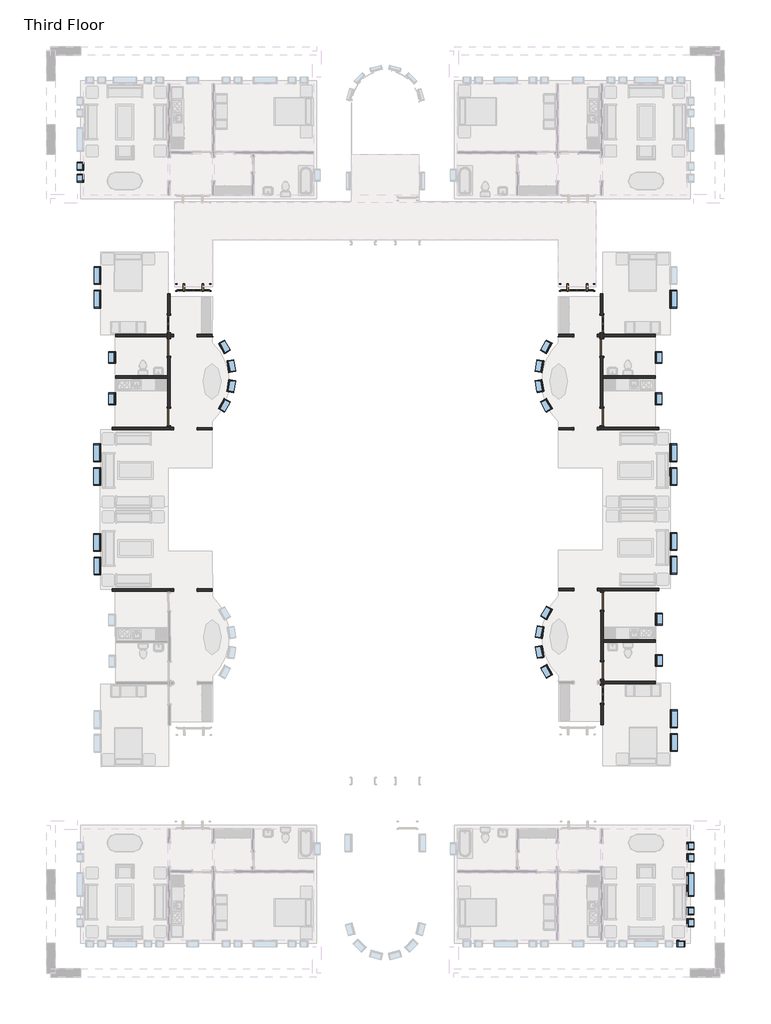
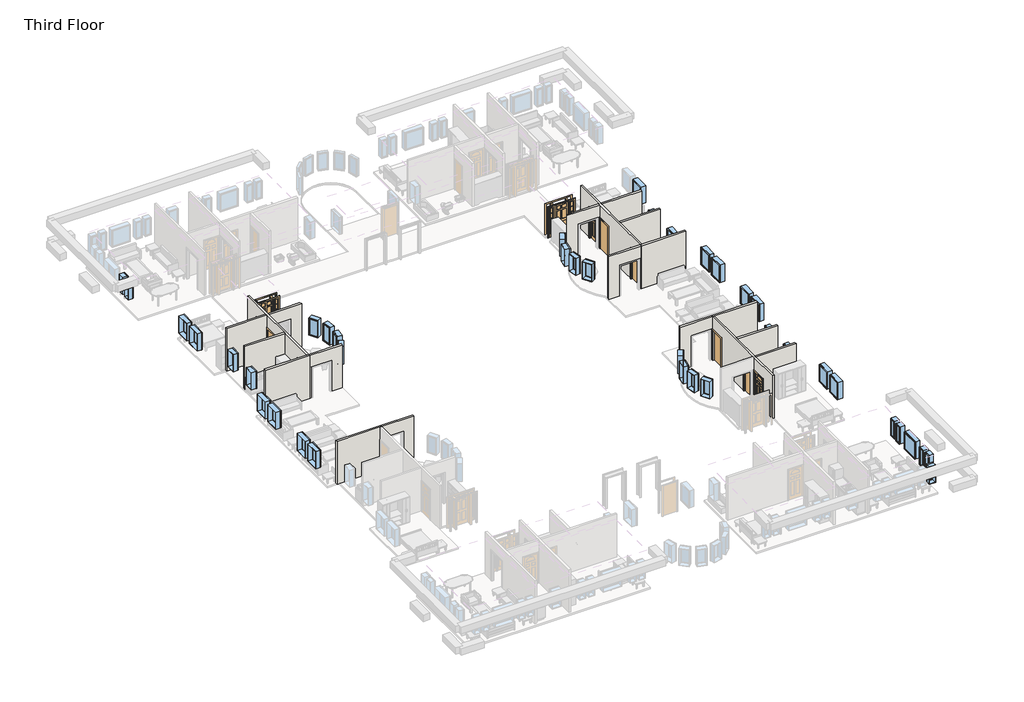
# One storey, part 2 of 5: 39 windows, 19 walls, 11 doors.
"""IFC4 building model written with IfcOpenShell, lengths in millimetres."""

from ifc_helpers import new_model, si_unit, frame, origin, place, context, project, spatial, polyline, circle_curve, outline, extrude, faceted_brep, transform, mapped, element, save
from ifc_brep_helpers import plane_surface, cylinder_surface, advanced_brep
from components import door_7a520c88, door_829da954, door_a1797ceb, door_a3eb833a, door_16372e1c, door_dba5aa2e, door_ffdb1193, window_da97879f, window_d61ef850, window_60baf983, window_ed80354a, window_15c49d37, window_0e2fc6ce, window_d89bf842

model = new_model("IFC4")

# Units and contexts
model_context = context("Model", 3, world=origin())
ifc_project = project(units=[si_unit("LENGTHUNIT", "METRE", prefix="MILLI")], contexts=[model_context])

# Site, building, storey
site = spatial("IfcSite", under=ifc_project)
building = spatial("IfcBuilding", under=site)
storey = spatial("IfcBuildingStorey", under=building, Name="Third Floor", Elevation=6096.0)

# Doors
placement = place(None, origin())
door_shape = door_7a520c88(model_context)
element("IfcDoor", 1, ObjectType="Single-Decorative 2 : 36\" x 84\"", at=placement, inside=storey, context=model_context, shape_type="MappedRepresentation", body=[
    mapped(door_shape, transform((-3771.8996568, -2102.1231556, 6096.0), x_axis=(0.0007588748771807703, -0.9999997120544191, 0.0), y_axis=(0.9999997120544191, 0.0007588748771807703, 0.0), z_axis=(0.0, 0.0, 1.0))),
])
door_2_shape = door_829da954(model_context)
element("IfcDoor", 2, ObjectType="Single-Decorative 2 : 36\" x 84\"", at=placement, inside=storey, context=model_context, shape_type="MappedRepresentation", body=[
    mapped(door_2_shape, transform((-26098.4432559, -2102.1231556, 6096.0), x_axis=(-0.0007588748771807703, -0.9999997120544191, 0.0), y_axis=(0.9999997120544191, -0.0007588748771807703, 0.0), z_axis=(0.0, 0.0, 1.0))),
])
element("IfcDoor", 3, ObjectType="Single-Decorative 2 : 36\" x 84\"", at=placement, inside=storey, context=model_context, shape_type="MappedRepresentation", body=[
    mapped(door_2_shape, transform((-3757.4044126, -21203.0849432, 6096.0), x_axis=(-0.0007588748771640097, 0.999999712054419, 0.0), y_axis=(-0.999999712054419, -0.0007588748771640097, 0.0), z_axis=(0.0, 0.0, 1.0))),
])
door_3_shape = door_a1797ceb(model_context)
element("IfcDoor", 4, ObjectType="Single-Flush : 36\" x 84\"", at=placement, inside=storey, context=model_context, shape_type="MappedRepresentation", body=[
    mapped(door_3_shape, transform((-26099.3684761, -3321.3228045, 6096.0), x_axis=(0.0007588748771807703, 0.9999997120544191, 0.0), y_axis=(-0.9999997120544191, 0.0007588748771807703, 0.0), z_axis=(0.0, 0.0, 1.0))),
])
element("IfcDoor", 5, ObjectType="Single-Flush : 36\" x 84\"", at=placement, inside=storey, context=model_context, shape_type="MappedRepresentation", body=[
    mapped(door_3_shape, transform((-3758.3296328, -19983.8852943, 6096.0), x_axis=(0.0007588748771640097, -0.999999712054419, 0.0), y_axis=(0.999999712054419, 0.0007588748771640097, 0.0), z_axis=(0.0, 0.0, 1.0))),
])
door_4_shape = door_a3eb833a(model_context)
element("IfcDoor", 6, ObjectType="Single-Flush : 36\" x 84\"", at=placement, inside=storey, context=model_context, shape_type="MappedRepresentation", body=[
    mapped(door_4_shape, transform((-26102.0839012, -6899.5467742, 6096.0), x_axis=(-0.0007588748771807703, -0.9999997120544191, 0.0), y_axis=(0.9999997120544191, -0.0007588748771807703, 0.0), z_axis=(0.0, 0.0, 1.0))),
])
element("IfcDoor", 7, ObjectType="Single-Flush : 36\" x 84\"", at=placement, inside=storey, context=model_context, shape_type="MappedRepresentation", body=[
    mapped(door_4_shape, transform((-3761.0450579, -16405.6613246, 6096.0), x_axis=(-0.0007588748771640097, 0.999999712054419, 0.0), y_axis=(-0.999999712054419, -0.0007588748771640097, 0.0), z_axis=(0.0, 0.0, 1.0))),
])
door_5_shape = door_16372e1c(model_context)
element("IfcDoor", 8, ObjectType="Single-Flush : 36\" x 84\"", at=placement, inside=storey, context=model_context, shape_type="MappedRepresentation", body=[
    mapped(door_5_shape, transform((-3768.2590115, -6899.5467742, 6096.0), x_axis=(0.0007588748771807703, -0.9999997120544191, 0.0), y_axis=(0.9999997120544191, 0.0007588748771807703, 0.0), z_axis=(0.0, 0.0, 1.0))),
])
element("IfcDoor", 9, ObjectType="Single-Flush : 36\" x 84\"", at=placement, inside=storey, context=model_context, shape_type="MappedRepresentation", body=[
    mapped(door_5_shape, transform((-3770.9744365, -3321.3228045, 6096.0), x_axis=(-0.0007588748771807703, 0.9999997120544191, 0.0), y_axis=(-0.9999997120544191, -0.0007588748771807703, 0.0), z_axis=(0.0, 0.0, 1.0))),
])
door_6_shape = door_dba5aa2e(model_context)
element("IfcDoor", 10, ObjectType="Single-Raised Panel with Sidelights : 36\" x 84\"", at=placement, inside=storey, context=model_context, shape_type="MappedRepresentation", body=[
    mapped(door_6_shape, transform((-24841.3047997, -223.5602693, 6096.0), x_axis=(0.9999997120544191, -0.0007588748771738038, 0.0), y_axis=(0.0007588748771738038, 0.9999997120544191, 0.0), z_axis=(0.0, 0.0, 1.0))),
])
door_7_shape = door_ffdb1193(model_context)
element("IfcDoor", 11, ObjectType="Single-Raised Panel with Sidelights : 36\" x 84\"", at=placement, inside=storey, context=model_context, shape_type="MappedRepresentation", body=[
    mapped(door_7_shape, transform((-5029.0381129, -223.5602693, 6096.0), x_axis=(-0.9999997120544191, -0.0007588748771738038, 0.0), y_axis=(0.0007588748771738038, -0.9999997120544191, 0.0), z_axis=(0.0, 0.0, 1.0))),
])

# Walls
element("IfcWall", 12, ObjectType="Interior - 5\" Partition (2-hr)", at=placement, inside=storey, context=model_context, shape_type="Brep", body=[
    faceted_brep([(-832.5579351, -7443.419101, 6096.0), (-3704.3446082, -7445.5984284, 6096.0), (-3831.3445716, -7445.6948055, 6096.0), (-3831.3445716, -7445.6948055, 9144.0), (-3704.3446082, -7445.5984284, 9144.0), (-832.5579351, -7443.419101, 9144.0), (-832.461558, -7570.4190644, 6096.0), (-832.461558, -7570.4190644, 9144.0), (-3831.2481945, -7572.6947689, 9144.0), (-3831.2481945, -7572.6947689, 6096.0)], [[[0, 1, 2, 3, 4, 5]], [[6, 7, 8, 9]], [[2, 1, 0, 6, 9]], [[5, 4, 3, 8, 7]], [[0, 5, 7, 6]], [[3, 2, 9, 8]]]),
])
element("IfcWall", 13, ObjectType="Interior - 5\" Partition (2-hr)", at=placement, inside=storey, context=model_context, shape_type="Brep", body=[
    faceted_brep([(-3836.5862816, -538.4842944, 6096.0), (-3836.5862816, -538.4842944, 9144.0), (-3709.5863182, -538.3879173, 9144.0), (-3709.5863182, -538.3879173, 6096.0), (-3831.3445716, -7445.6948055, 6096.0), (-3831.4120356, -7356.7948311, 6096.0), (-3704.4120721, -7356.698454, 6096.0), (-3704.3446082, -7445.5984284, 6096.0), (-3834.8213758, -2864.1711247, 6096.0), (-3834.8888398, -2775.2711503, 6096.0), (-3834.9852169, -2648.2711869, 6096.0), (-3835.0526809, -2559.3712125, 6096.0), (-3708.0527175, -2559.2748354, 6096.0), (-3707.9852535, -2648.1748098, 6096.0), (-3707.8888764, -2775.1747732, 6096.0), (-3707.8214124, -2864.0747476, 6096.0), (-3707.1274972, -3778.4744843, 6096.0), (-3706.366118, -4781.7741954, 6096.0), (-3706.2697409, -4908.7741589, 6096.0), (-3705.1059873, -6442.2987173, 6096.0), (-3832.1059508, -6442.3950944, 6096.0), (-3834.1274606, -3778.5708614, 6096.0), (-3835.7465961, -1644.9714758, 6096.0), (-3708.7466326, -1644.8750987, 6096.0), (-3834.9852169, -2648.2711869, 9144.0), (-3834.8888398, -2775.2711503, 9144.0), (-3831.3445716, -7445.6948055, 9144.0), (-3704.3446082, -7445.5984284, 9144.0), (-3706.2697409, -4908.7741589, 9144.0), (-3706.366118, -4781.7741954, 9144.0), (-3707.8888764, -2775.1747732, 9144.0), (-3707.9852535, -2648.1748098, 9144.0), (-3835.0526809, -2559.3712125, 8229.6), (-3834.8213758, -2864.1711247, 8229.6), (-3834.1274606, -3778.5708614, 8229.6), (-3832.1059508, -6442.3950944, 8229.6), (-3831.4120356, -7356.7948311, 8229.6), (-3835.7465961, -1644.9714758, 8229.6), (-3708.0527175, -2559.2748354, 8229.6), (-3708.7466326, -1644.8750987, 8229.6), (-3704.4120721, -7356.698454, 8229.6), (-3705.1059873, -6442.2987173, 8229.6), (-3707.1274972, -3778.4744843, 8229.6), (-3707.8214124, -2864.0747476, 8229.6)], [[[0, 1, 2, 3]], [[4, 5, 6, 7]], [[8, 9, 10, 11, 12, 13, 14, 15]], [[16, 17, 18, 19, 20, 21]], [[22, 0, 3, 23]], [[1, 24, 25, 26, 27, 28, 29, 30, 31, 2]], [[32, 11, 10, 9, 8, 33, 34, 21, 20, 35, 36, 5, 4, 26, 25, 24, 1, 0, 22, 37]], [[15, 14, 13, 12, 38, 39, 23, 3, 2, 31, 30, 29, 28, 27, 7, 6, 40, 41, 19, 18, 17, 16, 42, 43]], [[26, 4, 7, 27]], [[40, 6, 5, 36]], [[41, 40, 36, 35]], [[19, 41, 35, 20]], [[33, 8, 15, 43]], [[34, 33, 43, 42]], [[21, 34, 42, 16]], [[38, 12, 11, 32]], [[39, 38, 32, 37]], [[23, 39, 37, 22]]]),
])
element("IfcWall", 14, ObjectType="Interior - 5\" Partition (2-hr)", at=placement, inside=storey, context=model_context, shape_type="SweptSolid", body=[
    extrude(outline(polyline([(-3707.9852535, -2648.1748098), (-1012.4110297, -2646.1292056), (-1012.3146526, -2773.1291691), (-3707.8888764, -2775.1747732), (-3707.9852535, -2648.1748098)])), frame((0.0, 0.0, 6096.0), z_axis=(0.0, 0.0, 1.0), x_axis=(1.0, 0.0, 0.0)), (0.0, 0.0, 1.0), 3048.0),
])
element("IfcWall", 15, ObjectType="Interior - 5\" Partition (2-hr)", at=placement, inside=storey, context=model_context, shape_type="SweptSolid", body=[
    extrude(outline(polyline([(-1010.6955171, -4906.7285547), (-3706.2697409, -4908.7741589), (-3706.366118, -4781.7741954), (-1010.7918942, -4779.7285913), (-1010.6955171, -4906.7285547)])), frame((0.0, 0.0, 6096.0), z_axis=(0.0, 0.0, 1.0), x_axis=(1.0, 0.0, 0.0)), (0.0, 0.0, 1.0), 3048.0),
])
element("IfcWall", 16, ObjectType="Interior - 5\" Partition (2-hr)", at=placement, inside=storey, context=model_context, shape_type="AdvancedBrep", body=[
    advanced_brep(
    [(-5993.9845952, -2649.9095978, 6096.0), (-5219.2848183, -2649.3216974, 6096.0), (-5219.1884412, -2776.3216608, 6096.0), (-6035.2682302, -2776.9409635, 6096.0), (-5993.9193325, -2735.9088692, 6096.0), (-4000.0851694, -2648.3964771, 6096.0), (-3834.9852169, -2648.2711869, 6096.0), (-3834.8888398, -2775.2711503, 6096.0), (-3999.9887923, -2775.3964406, 6096.0), (-3834.9852169, -2648.2711869, 9144.0), (-5993.9845952, -2649.9095978, 9144.0), (-5993.9193325, -2735.9088692, 9144.0), (-6035.2682302, -2776.9409635, 9144.0), (-3834.8888398, -2775.2711503, 9144.0), (-5219.2848183, -2649.3216974, 8229.6), (-4000.0851694, -2648.3964771, 8229.6), (-5219.1884412, -2776.3216608, 8229.6), (-3999.9887923, -2775.3964406, 8229.6)],
    [
        (0, 1),
        (1, 2),
        (2, 3),
        (3, 4, circle_curve(frame((-3991.8614496, -4794.7744983, 6096.0), z_axis=(0.0, 0.0, -1.0), x_axis=(-0.716928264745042, -0.697146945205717, 0.0)), 2871.7875)),
        (4, 0),
        (5, 6),
        (6, 7),
        (7, 8),
        (8, 5),
        (9, 10),
        (10, 11),
        (11, 12, circle_curve(frame((-3991.8614496, -4794.7744983, 9144.0), z_axis=(0.0, 0.0, 1.0), x_axis=(-0.716928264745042, -0.697146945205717, 0.0)), 2871.7875)),
        (12, 13),
        (13, 9),
        (14, 1),
        (0, 10),
        (9, 6),
        (5, 15),
        (15, 14),
        (2, 16),
        (16, 17),
        (17, 8),
        (7, 13),
        (12, 3),
        (4, 11),
        (17, 15),
        (14, 16),
    ],
    [
        plane_surface(frame((-3771.4852352, -2648.2229983, 6096.0), z_axis=(0.0, 0.0, -1.0000000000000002), x_axis=(0.0007588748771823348, -0.9999997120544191, 0.0))),
        plane_surface(frame((-6218.7760824, -2650.0801864, 9144.0), z_axis=(0.0, 0.0, 1.0000000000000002), x_axis=(0.000758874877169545, -0.9999997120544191, 0.0))),
        plane_surface(frame((-3771.4852352, -2648.2229983, 6096.0), z_axis=(-0.0007588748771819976, 0.9999997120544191, 0.0), x_axis=(-0.9999997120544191, -0.0007588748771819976, 0.0))),
        plane_surface(frame((-3771.3888581, -2775.2229618, 6096.0), z_axis=(0.0007588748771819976, -0.9999997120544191, 0.0), x_axis=(0.9999997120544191, 0.0007588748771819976, 0.0))),
        plane_surface(frame((-3836.4525584, -714.6967437, 6096.0), z_axis=(0.9999997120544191, 0.0007588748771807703, 0.0), x_axis=(0.0007588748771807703, -0.9999997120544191, 0.0))),
        plane_surface(frame((-5994.8723335, -1480.1014046, 5943.6), z_axis=(-0.999999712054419, -0.0007588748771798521, 0.0), x_axis=(0.0007588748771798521, -0.999999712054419, 0.0))),
        cylinder_surface(frame((-3991.8614496, -4794.7744983, 5943.6), z_axis=(0.0, 0.0, 1.0), x_axis=(-0.716928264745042, -0.697146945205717, 0.0)), 2871.7875),
        plane_surface(frame((-3999.9887923, -2775.3964406, 8229.6), z_axis=(-0.9999997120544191, -0.0007588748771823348, 0.0), x_axis=(-0.0007588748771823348, 0.9999997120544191, 0.0))),
        plane_surface(frame((-5219.1884412, -2776.3216608, 6096.0), z_axis=(0.9999997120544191, 0.0007588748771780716, 0.0), x_axis=(-0.0007588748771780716, 0.9999997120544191, 0.0))),
        plane_surface(frame((-5219.1884412, -2776.3216608, 8229.6), z_axis=(0.0, 0.0, -1.0000000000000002), x_axis=(-0.0007588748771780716, 0.9999997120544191, 0.0))),
    ],
    [
        (0, [[1, 2, 3, 4, 5]]),
        (0, [[6, 7, 8, 9]]),
        (1, [[10, 11, 12, 13, 14]]),
        (2, [[15, -1, 16, -10, 17, -6, 18, 19]]),
        (3, [[-3, 20, 21, 22, -8, 23, -13, 24]]),
        (4, [[-17, -14, -23, -7]]),
        (5, [[-16, -5, 25, -11]]),
        (6, [[-4, -24, -12, -25]]),
        (7, [[-22, 26, -18, -9]]),
        (8, [[-20, -2, -15, 27]]),
        (9, [[-21, -27, -19, -26]]),
    ],
),
])
element("IfcWall", 17, ObjectType="Interior - 5\" Partition (2-hr)", at=placement, inside=storey, context=model_context, shape_type="SweptSolid", body=[
    extrude(outline(polyline([(-228.6, -2133.6), (-228.6, 0.0), (-63.5, 0.0), (-63.5, -3048.0), (-2222.5, -3048.0), (-2222.5, 0.0), (-1447.8, 0.0), (-1447.8, -2133.6), (-228.6, -2133.6)])), frame((-3767.7482128, -7572.6465804, 6096.0), z_axis=(-0.0007588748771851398, 0.9999997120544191, 0.0), x_axis=(0.9999997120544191, 0.0007588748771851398, 0.0)), (0.0, 0.0, 1.0), 127.0),
])
element("IfcWall", 18, ObjectType="Interior - 5\" Partition (2-hr)", at=placement, inside=storey, context=model_context, shape_type="Brep", body=[
    faceted_brep([(-29037.8813546, -7570.4190644, 6096.0), (-26039.0947181, -7572.6947689, 6096.0), (-26039.0947181, -7572.6947689, 9144.0), (-29037.8813546, -7570.4190644, 9144.0), (-29037.7849775, -7443.419101, 6096.0), (-29037.7849775, -7443.419101, 9144.0), (-26165.9983045, -7445.5984284, 9144.0), (-26038.998341, -7445.6948055, 9144.0), (-26038.998341, -7445.6948055, 6096.0), (-26165.9983045, -7445.5984284, 6096.0)], [[[0, 1, 2, 3]], [[4, 5, 6, 7, 8, 9]], [[1, 0, 4, 9, 8]], [[3, 2, 7, 6, 5]], [[0, 3, 5, 4]], [[2, 1, 8, 7]]]),
])
element("IfcWall", 19, ObjectType="Interior - 5\" Partition (2-hr)", at=placement, inside=storey, context=model_context, shape_type="Brep", body=[
    faceted_brep([(-26160.7565944, -538.3879173, 6096.0), (-26160.7565944, -538.3879173, 9144.0), (-26033.756631, -538.4842944, 9144.0), (-26033.756631, -538.4842944, 6096.0), (-26165.9983045, -7445.5984284, 6096.0), (-26165.9308405, -7356.698454, 6096.0), (-26038.930877, -7356.7948311, 6096.0), (-26038.998341, -7445.6948055, 6096.0), (-26162.5215002, -2864.0747476, 6096.0), (-26162.4540363, -2775.1747732, 6096.0), (-26162.3576591, -2648.1748098, 6096.0), (-26162.2901952, -2559.2748354, 6096.0), (-26035.2902317, -2559.3712125, 6096.0), (-26035.3576957, -2648.2711869, 6096.0), (-26035.4540728, -2775.2711503, 6096.0), (-26035.5215368, -2864.1711247, 6096.0), (-26036.215452, -3778.5708614, 6096.0), (-26038.2369619, -6442.3950944, 6096.0), (-26165.2369253, -6442.2987173, 6096.0), (-26164.0731717, -4908.7741589, 6096.0), (-26163.9767946, -4781.7741954, 6096.0), (-26163.2154154, -3778.4744843, 6096.0), (-26161.59628, -1644.8750987, 6096.0), (-26034.5963165, -1644.9714758, 6096.0), (-26162.3576591, -2648.1748098, 9144.0), (-26162.4540363, -2775.1747732, 9144.0), (-26163.9767946, -4781.7741954, 9144.0), (-26164.0731717, -4908.7741589, 9144.0), (-26165.9983045, -7445.5984284, 9144.0), (-26038.998341, -7445.6948055, 9144.0), (-26035.4540728, -2775.2711503, 9144.0), (-26035.3576957, -2648.2711869, 9144.0), (-26162.2901952, -2559.2748354, 8229.6), (-26162.5215002, -2864.0747476, 8229.6), (-26163.2154154, -3778.4744843, 8229.6), (-26165.2369253, -6442.2987173, 8229.6), (-26165.9308405, -7356.698454, 8229.6), (-26161.59628, -1644.8750987, 8229.6), (-26035.2902317, -2559.3712125, 8229.6), (-26034.5963165, -1644.9714758, 8229.6), (-26038.930877, -7356.7948311, 8229.6), (-26038.2369619, -6442.3950944, 8229.6), (-26036.215452, -3778.5708614, 8229.6), (-26035.5215368, -2864.1711247, 8229.6)], [[[0, 1, 2, 3]], [[4, 5, 6, 7]], [[8, 9, 10, 11, 12, 13, 14, 15]], [[16, 17, 18, 19, 20, 21]], [[22, 0, 3, 23]], [[1, 24, 25, 26, 27, 28, 29, 30, 31, 2]], [[32, 11, 10, 9, 8, 33, 34, 21, 20, 19, 18, 35, 36, 5, 4, 28, 27, 26, 25, 24, 1, 0, 22, 37]], [[15, 14, 13, 12, 38, 39, 23, 3, 2, 31, 30, 29, 7, 6, 40, 41, 17, 16, 42, 43]], [[28, 4, 7, 29]], [[40, 6, 5, 36]], [[41, 40, 36, 35]], [[17, 41, 35, 18]], [[33, 8, 15, 43]], [[34, 33, 43, 42]], [[21, 34, 42, 16]], [[38, 12, 11, 32]], [[39, 38, 32, 37]], [[23, 39, 37, 22]]]),
])
element("IfcWall", 20, ObjectType="Interior - 5\" Partition (2-hr)", at=placement, inside=storey, context=model_context, shape_type="SweptSolid", body=[
    extrude(outline(polyline([(-26162.4540363, -2775.1747732), (-28858.0282601, -2773.1291691), (-28857.931883, -2646.1292056), (-26162.3576591, -2648.1748098), (-26162.4540363, -2775.1747732)])), frame((0.0, 0.0, 6096.0), z_axis=(0.0, 0.0, 1.0), x_axis=(1.0, 0.0, 0.0)), (0.0, 0.0, 1.0), 3048.0),
])
element("IfcWall", 21, ObjectType="Interior - 5\" Partition (2-hr)", at=placement, inside=storey, context=model_context, shape_type="SweptSolid", body=[
    extrude(outline(polyline([(-28859.5510184, -4779.7285913), (-26163.9767946, -4781.7741954), (-26164.0731717, -4908.7741589), (-28859.6473955, -4906.7285547), (-28859.5510184, -4779.7285913)])), frame((0.0, 0.0, 6096.0), z_axis=(0.0, 0.0, 1.0), x_axis=(1.0, 0.0, 0.0)), (0.0, 0.0, 1.0), 3048.0),
])
element("IfcWall", 22, ObjectType="Interior - 5\" Partition (2-hr)", at=placement, inside=storey, context=model_context, shape_type="AdvancedBrep", body=[
    advanced_brep(
    [(-23835.0746824, -2776.9409635, 6096.0), (-24651.1544714, -2776.3216608, 6096.0), (-24651.0580943, -2649.3216974, 6096.0), (-23876.3583174, -2649.9095978, 6096.0), (-23876.4235801, -2735.9088692, 6096.0), (-25870.3541204, -2775.3964406, 6096.0), (-26035.4540728, -2775.2711503, 6096.0), (-26035.3576957, -2648.2711869, 6096.0), (-25870.2577433, -2648.3964771, 6096.0), (-26035.4540728, -2775.2711503, 9144.0), (-23835.0746824, -2776.9409635, 9144.0), (-23876.4235801, -2735.9088692, 9144.0), (-23876.3583174, -2649.9095978, 9144.0), (-26035.3576957, -2648.2711869, 9144.0), (-24651.1544714, -2776.3216608, 8229.6), (-25870.3541204, -2775.3964406, 8229.6), (-24651.0580943, -2649.3216974, 8229.6), (-25870.2577433, -2648.3964771, 8229.6)],
    [
        (0, 1),
        (1, 2),
        (2, 3),
        (3, 4),
        (4, 0, circle_curve(frame((-25878.481463, -4794.7744983, 6096.0), z_axis=(0.0, 0.0, -1.0), x_axis=(0.7005417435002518, 0.7136114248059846, 0.0)), 2871.7875)),
        (5, 6),
        (6, 7),
        (7, 8),
        (8, 5),
        (9, 10),
        (10, 11, circle_curve(frame((-25878.481463, -4794.7744983, 9144.0), z_axis=(0.0, 0.0, 1.0), x_axis=(0.7005417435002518, 0.7136114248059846, 0.0)), 2871.7875)),
        (11, 12),
        (12, 13),
        (13, 9),
        (14, 1),
        (0, 10),
        (9, 6),
        (5, 15),
        (15, 14),
        (2, 16),
        (16, 17),
        (17, 8),
        (7, 13),
        (12, 3),
        (4, 11),
        (17, 15),
        (14, 16),
    ],
    [
        plane_surface(frame((-26098.9540545, -2775.2229618, 6096.0), z_axis=(0.0, 0.0, -1.0000000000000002), x_axis=(0.000758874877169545, 0.9999997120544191, 0.0))),
        plane_surface(frame((-23651.6632074, -2777.0801499, 9144.0), z_axis=(0.0, 0.0, 1.0000000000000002), x_axis=(0.000758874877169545, 0.9999997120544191, 0.0))),
        plane_surface(frame((-26098.9540545, -2775.2229618, 6096.0), z_axis=(-0.0007588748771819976, -0.9999997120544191, 0.0), x_axis=(0.9999997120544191, -0.0007588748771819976, 0.0))),
        plane_surface(frame((-26098.8576774, -2648.2229983, 6096.0), z_axis=(0.0007588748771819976, 0.9999997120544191, 0.0), x_axis=(-0.9999997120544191, 0.0007588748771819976, 0.0))),
        plane_surface(frame((-26033.8903542, -714.6967437, 6096.0), z_axis=(-0.9999997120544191, 0.0007588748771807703, 0.0), x_axis=(0.0007588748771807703, 0.9999997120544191, 0.0))),
        cylinder_surface(frame((-25878.481463, -4794.7744983, 5943.6), z_axis=(0.0, 0.0, 1.0), x_axis=(0.7005417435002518, 0.7136114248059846, 0.0)), 2871.7875),
        plane_surface(frame((-23875.4705791, -1480.1014046, 5943.6), z_axis=(0.999999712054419, -0.0007588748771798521, 0.0), x_axis=(0.0007588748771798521, 0.999999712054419, 0.0))),
        plane_surface(frame((-25870.2577433, -2648.3964771, 8229.6), z_axis=(0.9999997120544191, -0.000758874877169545, 0.0), x_axis=(-0.000758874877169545, -0.9999997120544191, 0.0))),
        plane_surface(frame((-24651.0580943, -2649.3216974, 6096.0), z_axis=(-0.9999997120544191, 0.000758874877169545, 0.0), x_axis=(-0.000758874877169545, -0.9999997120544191, 0.0))),
        plane_surface(frame((-24651.0580943, -2649.3216974, 8229.6), z_axis=(0.0, 0.0, -1.0000000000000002), x_axis=(-0.000758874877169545, -0.9999997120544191, 0.0))),
    ],
    [
        (0, [[1, 2, 3, 4, 5]]),
        (0, [[6, 7, 8, 9]]),
        (1, [[10, 11, 12, 13, 14]]),
        (2, [[15, -1, 16, -10, 17, -6, 18, 19]]),
        (3, [[-3, 20, 21, 22, -8, 23, -13, 24]]),
        (4, [[-17, -14, -23, -7]]),
        (5, [[-16, -5, 25, -11]]),
        (6, [[-4, -24, -12, -25]]),
        (7, [[-22, 26, -18, -9]]),
        (8, [[-20, -2, -15, 27]]),
        (9, [[-21, -27, -19, -26]]),
    ],
),
])
element("IfcWall", 23, ObjectType="Interior - 5\" Partition (2-hr)", at=placement, inside=storey, context=model_context, shape_type="SweptSolid", body=[
    extrude(outline(polyline([(63.5, 0.0), (228.5999999, 0.0), (228.5999999, -2133.6), (1447.8, -2133.6), (1447.8, 0.0), (2222.5, 0.0), (2222.5, -3048.0), (63.5, -3048.0), (63.5, 0.0)])), frame((-26102.5946998, -7572.6465804, 6096.0), z_axis=(0.0007588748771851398, 0.9999997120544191, 0.0), x_axis=(0.9999997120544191, -0.0007588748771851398, 0.0)), (0.0, 0.0, 1.0), 127.0),
])
element("IfcWall", 24, ObjectType="Interior - 5\" Partition (2-hr)", at=placement, inside=storey, context=model_context, shape_type="Brep", body=[
    faceted_brep([(-826.2692018, -15730.3340025, 6096.0), (-3825.0558383, -15732.609707, 6096.0), (-3825.0558383, -15732.609707, 9144.0), (-826.2692018, -15730.3340025, 9144.0), (-826.1728246, -15857.3339659, 6096.0), (-826.1728246, -15857.3339659, 9144.0), (-3697.9594977, -15859.5132933, 9144.0), (-3824.9594612, -15859.6096704, 9144.0), (-3824.9594612, -15859.6096704, 6096.0), (-3697.9594977, -15859.5132933, 6096.0)], [[[0, 1, 2, 3]], [[4, 5, 6, 7, 8, 9]], [[1, 0, 4, 9, 8]], [[3, 2, 7, 6, 5]], [[0, 3, 5, 4]], [[2, 1, 8, 7]]]),
])
element("IfcWall", 25, ObjectType="Interior - 5\" Partition (2-hr)", at=placement, inside=storey, context=model_context, shape_type="Brep", body=[
    faceted_brep([(-3692.7177877, -22766.7238044, 6096.0), (-3692.7177877, -22766.7238044, 9144.0), (-3819.7177511, -22766.8201815, 9144.0), (-3819.7177511, -22766.8201815, 6096.0), (-3697.9594977, -15859.5132933, 6096.0), (-3697.8920337, -15948.4132677, 6096.0), (-3824.8919972, -15948.5096448, 6096.0), (-3824.9594612, -15859.6096704, 6096.0), (-3694.4826935, -20441.0369741, 6096.0), (-3694.4152295, -20529.9369485, 6096.0), (-3694.3188524, -20656.9369119, 6096.0), (-3694.2513884, -20745.8368863, 6096.0), (-3821.2513519, -20745.9332634, 6096.0), (-3821.3188158, -20657.033289, 6096.0), (-3821.415193, -20530.0333256, 6096.0), (-3821.4826569, -20441.1333512, 6096.0), (-3822.1765721, -19526.7336145, 6096.0), (-3824.198082, -16862.9093815, 6096.0), (-3697.1981186, -16862.8130044, 6096.0), (-3696.034365, -18396.3375629, 6096.0), (-3695.9379879, -18523.3375263, 6096.0), (-3695.1766087, -19526.6372374, 6096.0), (-3693.5574733, -21660.236623, 6096.0), (-3820.5574367, -21660.3330001, 6096.0), (-3694.3188524, -20656.9369119, 9144.0), (-3694.4152295, -20529.9369485, 9144.0), (-3695.9379879, -18523.3375263, 9144.0), (-3696.034365, -18396.3375629, 9144.0), (-3697.9594977, -15859.5132933, 9144.0), (-3824.9594612, -15859.6096704, 9144.0), (-3821.415193, -20530.0333256, 9144.0), (-3821.3188158, -20657.033289, 9144.0), (-3694.2513884, -20745.8368863, 8229.6), (-3694.4826935, -20441.0369741, 8229.6), (-3695.1766087, -19526.6372374, 8229.6), (-3697.1981186, -16862.8130044, 8229.6), (-3697.8920337, -15948.4132677, 8229.6), (-3693.5574733, -21660.236623, 8229.6), (-3821.2513519, -20745.9332634, 8229.6), (-3820.5574367, -21660.3330001, 8229.6), (-3824.8919972, -15948.5096448, 8229.6), (-3824.198082, -16862.9093815, 8229.6), (-3822.1765721, -19526.7336145, 8229.6), (-3821.4826569, -20441.1333512, 8229.6)], [[[0, 1, 2, 3]], [[4, 5, 6, 7]], [[8, 9, 10, 11, 12, 13, 14, 15]], [[16, 17, 18, 19, 20, 21]], [[22, 0, 3, 23]], [[1, 24, 25, 26, 27, 28, 29, 30, 31, 2]], [[32, 11, 10, 9, 8, 33, 34, 21, 20, 19, 18, 35, 36, 5, 4, 28, 27, 26, 25, 24, 1, 0, 22, 37]], [[15, 14, 13, 12, 38, 39, 23, 3, 2, 31, 30, 29, 7, 6, 40, 41, 17, 16, 42, 43]], [[28, 4, 7, 29]], [[40, 6, 5, 36]], [[41, 40, 36, 35]], [[17, 41, 35, 18]], [[33, 8, 15, 43]], [[34, 33, 43, 42]], [[21, 34, 42, 16]], [[38, 12, 11, 32]], [[39, 38, 32, 37]], [[23, 39, 37, 22]]]),
])
element("IfcWall", 26, ObjectType="Interior - 5\" Partition (2-hr)", at=placement, inside=storey, context=model_context, shape_type="SweptSolid", body=[
    extrude(outline(polyline([(-3694.4152295, -20529.9369485), (-998.8410057, -20527.8913444), (-998.7446286, -20654.8913078), (-3694.3188524, -20656.9369119), (-3694.4152295, -20529.9369485)])), frame((0.0, 0.0, 6096.0), z_axis=(0.0, 0.0, 1.0), x_axis=(1.0, 0.0, 0.0)), (0.0, 0.0, 1.0), 3048.0),
])
element("IfcWall", 27, ObjectType="Interior - 5\" Partition (2-hr)", at=placement, inside=storey, context=model_context, shape_type="SweptSolid", body=[
    extrude(outline(polyline([(-1000.363764, -18521.2919221), (-3695.9379879, -18523.3375263), (-3696.034365, -18396.3375629), (-1000.4601411, -18394.2919587), (-1000.363764, -18521.2919221)])), frame((0.0, 0.0, 6096.0), z_axis=(0.0, 0.0, 1.0), x_axis=(1.0, 0.0, 0.0)), (0.0, 0.0, 1.0), 3048.0),
])
element("IfcWall", 28, ObjectType="Interior - 5\" Partition (2-hr)", at=placement, inside=storey, context=model_context, shape_type="SweptSolid", body=[
    extrude(outline(polyline([(-228.6, -2133.6), (-228.6, 0.0), (-63.5000001, 0.0), (-63.5000001, -3048.0), (-2222.5000001, -3048.0), (-2222.5000001, 0.0), (-1447.8000001, 0.0), (-1447.8000001, -2133.6), (-228.6, -2133.6)])), frame((-3761.4594794, -15859.5614819, 6096.0), z_axis=(-0.0007588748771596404, 0.9999997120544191, 0.0), x_axis=(0.9999997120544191, 0.0007588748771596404, 0.0)), (0.0, 0.0, 1.0), 127.0),
])
element("IfcWall", 29, ObjectType="Interior - 5\" Partition (2-hr)", at=placement, inside=storey, context=model_context, shape_type="Brep", body=[
    faceted_brep([(-29031.3673808, -15900.14243, 6096.0), (-26159.5873231, -15893.6044529, 6096.0), (-26032.5876522, -15893.3153218, 6096.0), (-26032.5876522, -15893.3153218, 9144.0), (-26159.5873231, -15893.6044529, 9144.0), (-29031.3673808, -15900.14243, 9144.0), (-29031.6565119, -15773.1427592, 6096.0), (-29031.6565119, -15773.1427592, 9144.0), (-26032.8767833, -15766.3156509, 9144.0), (-26032.8767833, -15766.3156509, 6096.0)], [[[0, 1, 2, 3, 4, 5]], [[6, 7, 8, 9]], [[2, 1, 0, 6, 9]], [[5, 4, 3, 8, 7]], [[0, 5, 7, 6]], [[3, 2, 9, 8]]]),
])
element("IfcWall", 30, ObjectType="Interior - 5\" Partition (2-hr)", at=placement, inside=storey, context=model_context, shape_type="SweptSolid", body=[
    extrude(outline(polyline([(63.5, 0.0), (228.5999999, 0.0), (228.5999999, -2133.6), (1447.8, -2133.6), (1447.8, 0.0), (2222.4999999, 0.0), (2222.4999999, -3048.0), (63.5, -3048.0), (63.5, 0.0)])), frame((-26096.0874876, -15893.4598873, 6096.0), z_axis=(-0.002276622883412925, 0.9999974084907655, 0.0), x_axis=(0.9999974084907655, 0.002276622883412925, 0.0)), (0.0, 0.0, 1.0), 127.0),
])

# Windows
window_shape = window_da97879f(model_context)
element("IfcWindow", 31, ObjectType="Fixed : 16\" x 48\"", at=placement, inside=storey, context=model_context, shape_type="MappedRepresentation", body=[
    mapped(window_shape, transform((-30668.8839563, 5378.9316867, 6096.0), x_axis=(0.0, -1.0, 0.0), y_axis=(1.0, 0.0, 0.0), z_axis=(0.0, 0.0, 1.0))),
])
element("IfcWindow", 32, ObjectType="Fixed : 16\" x 48\"", at=placement, inside=storey, context=model_context, shape_type="MappedRepresentation", body=[
    mapped(window_shape, transform((-30668.8839563, 5988.5316867, 6096.0), x_axis=(0.0, -1.0, 0.0), y_axis=(1.0, 0.0, 0.0), z_axis=(0.0, 0.0, 1.0))),
])
element("IfcWindow", 33, ObjectType="Fixed : 16\" x 48\"", at=placement, inside=storey, context=model_context, shape_type="MappedRepresentation", body=[
    mapped(window_shape, transform((354.0410437, -34054.5683133, 6096.0), x_axis=(1.0, 0.0, 0.0), y_axis=(0.0, 1.0, 0.0), z_axis=(0.0, 0.0, 1.0))),
])
element("IfcWindow", 34, ObjectType="Fixed : 16\" x 48\"", at=placement, inside=storey, context=model_context, shape_type="MappedRepresentation", body=[
    mapped(window_shape, transform((798.5410437, -28987.2683133, 6096.0), x_axis=(0.0, 1.0, 0.0), y_axis=(-1.0, 0.0, 0.0), z_axis=(0.0, 0.0, 1.0))),
])
element("IfcWindow", 35, ObjectType="Fixed : 16\" x 48\"", at=placement, inside=storey, context=model_context, shape_type="MappedRepresentation", body=[
    mapped(window_shape, transform((798.5410437, -29596.8683133, 6096.0), x_axis=(0.0, 1.0, 0.0), y_axis=(-1.0, 0.0, 0.0), z_axis=(0.0, 0.0, 1.0))),
])
window_2_shape = window_d61ef850(model_context)
element("IfcWindow", 36, ObjectType="Fixed : 16\" x 48\"", at=placement, inside=storey, context=model_context, shape_type="MappedRepresentation", body=[
    mapped(window_2_shape, transform((798.5410437, -33025.8683133, 6096.0), x_axis=(0.0, -1.0, 0.0), y_axis=(1.0, 0.0, 0.0), z_axis=(0.0, 0.0, 1.0))),
])
element("IfcWindow", 37, ObjectType="Fixed : 16\" x 48\"", at=placement, inside=storey, context=model_context, shape_type="MappedRepresentation", body=[
    mapped(window_2_shape, transform((798.5410437, -32416.2683133, 6096.0), x_axis=(0.0, -1.0, 0.0), y_axis=(1.0, 0.0, 0.0), z_axis=(0.0, 0.0, 1.0))),
])
window_3_shape = window_60baf983(model_context)
element("IfcWindow", 38, ObjectType="Fixed : 24\" x 48\"", at=placement, inside=storey, context=model_context, shape_type="MappedRepresentation", body=[
    mapped(window_3_shape, transform((-6645.6605112, -3324.6411967, 6096.0), x_axis=(-0.4955320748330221, -0.8685896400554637, 0.0), y_axis=(0.8685896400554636, -0.49553207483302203, 0.0), z_axis=(0.0, 0.0, 0.9999999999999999))),
])
element("IfcWindow", 39, ObjectType="Fixed : 24\" x 48\"", at=placement, inside=storey, context=model_context, shape_type="MappedRepresentation", body=[
    mapped(window_3_shape, transform((-6988.2338749, -4319.7022169, 6096.0), x_axis=(-0.16898438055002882, -0.9856187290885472, 0.0), y_axis=(0.9856187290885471, -0.1689843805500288, 0.0), z_axis=(0.0, 0.0, 0.9999999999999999))),
])
element("IfcWindow", 40, ObjectType="Fixed : 24\" x 48\"", at=placement, inside=storey, context=model_context, shape_type="MappedRepresentation", body=[
    mapped(window_3_shape, transform((-29035.0780489, -3876.391272, 6096.0), x_axis=(-0.0007588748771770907, -0.9999997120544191, 0.0), y_axis=(0.9999997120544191, -0.0007588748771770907, 0.0), z_axis=(0.0, 0.0, 1.0))),
])
element("IfcWindow", 41, ObjectType="Fixed : 24\" x 48\"", at=placement, inside=storey, context=model_context, shape_type="MappedRepresentation", body=[
    mapped(window_3_shape, transform((-29036.6971844, -6009.9906576, 6096.0), x_axis=(-0.0007588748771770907, -0.9999997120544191, 0.0), y_axis=(0.9999997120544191, -0.0007588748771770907, 0.0), z_axis=(0.0, 0.0, 1.0))),
])
element("IfcWindow", 42, ObjectType="Fixed : 24\" x 48\"", at=placement, inside=storey, context=model_context, shape_type="MappedRepresentation", body=[
    mapped(window_3_shape, transform((-23228.4628132, -6268.0487642, 6096.0), x_axis=(0.4968498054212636, 0.8678365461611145, 0.0), y_axis=(-0.8678365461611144, 0.49684980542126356, 0.0), z_axis=(0.0, 0.0, 0.9999999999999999))),
])
element("IfcWindow", 43, ObjectType="Fixed : 24\" x 48\"", at=placement, inside=storey, context=model_context, shape_type="MappedRepresentation", body=[
    mapped(window_3_shape, transform((-22884.5889624, -5274.0902622, 6096.0), x_axis=(0.17048010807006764, 0.9853611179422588, 0.0), y_axis=(-0.9853611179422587, 0.1704801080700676, 0.0), z_axis=(0.0, 0.0, 0.9999999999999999))),
])
element("IfcWindow", 44, ObjectType="Fixed : 24\" x 48\"", at=placement, inside=storey, context=model_context, shape_type="MappedRepresentation", body=[
    mapped(window_3_shape, transform((-823.4658961, -19424.361795, 6096.0), x_axis=(-0.0007588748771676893, 0.999999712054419, 0.0), y_axis=(-0.999999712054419, -0.0007588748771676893, 0.0), z_axis=(0.0, 0.0, 1.0))),
])
element("IfcWindow", 45, ObjectType="Fixed : 24\" x 48\"", at=placement, inside=storey, context=model_context, shape_type="MappedRepresentation", body=[
    mapped(window_3_shape, transform((-825.0850315, -17290.7624094, 6096.0), x_axis=(-0.0007588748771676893, 0.999999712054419, 0.0), y_axis=(-0.999999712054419, -0.0007588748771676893, 0.0), z_axis=(0.0, 0.0, 1.0))),
])
element("IfcWindow", 46, ObjectType="Fixed : 24\" x 48\"", at=placement, inside=storey, context=model_context, shape_type="MappedRepresentation", body=[
    mapped(window_3_shape, transform((-6633.7043804, -17041.5200437, 6096.0), x_axis=(-0.4955320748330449, -0.8685896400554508, 0.0), y_axis=(0.8685896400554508, -0.4955320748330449, 0.0), z_axis=(0.0, 0.0, 1.0))),
])
element("IfcWindow", 47, ObjectType="Fixed : 24\" x 48\"", at=placement, inside=storey, context=model_context, shape_type="MappedRepresentation", body=[
    mapped(window_3_shape, transform((-6976.0692553, -18035.9993152, 6096.0), x_axis=(-0.16898438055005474, -0.9856187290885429, 0.0), y_axis=(0.9856187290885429, -0.16898438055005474, 0.0), z_axis=(0.0, 0.0, 1.0))),
])
window_4_shape = window_ed80354a(model_context)
element("IfcWindow", 48, ObjectType="Fixed : 24\" x 48\"", at=placement, inside=storey, context=model_context, shape_type="MappedRepresentation", body=[
    mapped(window_4_shape, transform((-835.2648637, -3876.391272, 6096.0), x_axis=(0.0007588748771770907, -0.9999997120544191, 0.0), y_axis=(0.9999997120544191, 0.0007588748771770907, 0.0), z_axis=(0.0, 0.0, 1.0))),
])
element("IfcWindow", 49, ObjectType="Fixed : 24\" x 48\"", at=placement, inside=storey, context=model_context, shape_type="MappedRepresentation", body=[
    mapped(window_4_shape, transform((-833.6457282, -6009.9906576, 6096.0), x_axis=(0.0007588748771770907, -0.9999997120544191, 0.0), y_axis=(0.9999997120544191, 0.0007588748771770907, 0.0), z_axis=(0.0, 0.0, 1.0))),
])
element("IfcWindow", 50, ObjectType="Fixed : 24\" x 48\"", at=placement, inside=storey, context=model_context, shape_type="MappedRepresentation", body=[
    mapped(window_4_shape, transform((-6643.4261608, -6268.9339082, 6096.0), x_axis=(-0.4968498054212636, 0.8678365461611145, 0.0), y_axis=(-0.8678365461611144, -0.49684980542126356, 0.0), z_axis=(0.0, 0.0, 0.9999999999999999))),
])
element("IfcWindow", 51, ObjectType="Fixed : 24\" x 48\"", at=placement, inside=storey, context=model_context, shape_type="MappedRepresentation", body=[
    mapped(window_4_shape, transform((-6987.5093831, -5274.3939746, 6096.0), x_axis=(-0.17048010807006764, 0.9853611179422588, 0.0), y_axis=(-0.9853611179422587, -0.1704801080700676, 0.0), z_axis=(0.0, 0.0, 0.9999999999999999))),
])
element("IfcWindow", 52, ObjectType="Fixed : 24\" x 48\"", at=placement, inside=storey, context=model_context, shape_type="MappedRepresentation", body=[
    mapped(window_4_shape, transform((-23226.2298045, -3325.5239932, 6096.0), x_axis=(0.4955320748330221, -0.8685896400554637, 0.0), y_axis=(0.8685896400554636, 0.49553207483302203, 0.0), z_axis=(0.0, 0.0, 0.9999999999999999))),
])
element("IfcWindow", 53, ObjectType="Fixed : 24\" x 48\"", at=placement, inside=storey, context=model_context, shape_type="MappedRepresentation", body=[
    mapped(window_4_shape, transform((-22883.8649295, -4320.0032646, 6096.0), x_axis=(0.16898438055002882, -0.9856187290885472, 0.0), y_axis=(0.9856187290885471, 0.1689843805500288, 0.0), z_axis=(0.0, 0.0, 0.9999999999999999))),
])
element("IfcWindow", 54, ObjectType="Fixed : 24\" x 48\"", at=placement, inside=storey, context=model_context, shape_type="MappedRepresentation", body=[
    mapped(window_4_shape, transform((-6631.4713716, -19984.0448147, 6096.0), x_axis=(-0.4968498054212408, 0.8678365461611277, 0.0), y_axis=(-0.8678365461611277, -0.4968498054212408, 0.0), z_axis=(0.0, 0.0, 1.0))),
])
element("IfcWindow", 55, ObjectType="Fixed : 24\" x 48\"", at=placement, inside=storey, context=model_context, shape_type="MappedRepresentation", body=[
    mapped(window_4_shape, transform((-6975.3452224, -18990.0863128, 6096.0), x_axis=(-0.1704801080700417, 0.9853611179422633, 0.0), y_axis=(-0.9853611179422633, -0.1704801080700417, 0.0), z_axis=(0.0, 0.0, 1.0))),
])
window_5_shape = window_15c49d37(model_context)
element("IfcWindow", 56, ObjectType="Fixed : 36\" x 48\"", at=placement, inside=storey, context=model_context, shape_type="MappedRepresentation", body=[
    mapped(window_5_shape, transform((-29801.7340486, -10011.4987426, 6096.0), x_axis=(-0.0007588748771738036, -0.999999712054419, 0.0), y_axis=(0.999999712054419, -0.0007588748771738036, 0.0), z_axis=(0.0, 0.0, 1.0))),
])
element("IfcWindow", 57, ObjectType="Fixed : 36\" x 48\"", at=placement, inside=storey, context=model_context, shape_type="MappedRepresentation", body=[
    mapped(window_5_shape, transform((-29800.8088284, -8792.2990936, 6096.0), x_axis=(-0.0007588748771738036, -0.999999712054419, 0.0), y_axis=(0.999999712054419, -0.0007588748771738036, 0.0), z_axis=(0.0, 0.0, 1.0))),
])
element("IfcWindow", 58, ObjectType="Fixed : 36\" x 48\"", at=placement, inside=storey, context=model_context, shape_type="MappedRepresentation", body=[
    mapped(window_5_shape, transform((-29793.8696765, 351.6982734, 6096.0), x_axis=(-0.0007588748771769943, -0.999999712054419, 0.0), y_axis=(0.999999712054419, -0.0007588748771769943, 0.0), z_axis=(0.0, 0.0, 1.0))),
])
element("IfcWindow", 59, ObjectType="Fixed : 36\" x 48\"", at=placement, inside=storey, context=model_context, shape_type="MappedRepresentation", body=[
    mapped(window_5_shape, transform((-29794.7948968, -867.5013755, 6096.0), x_axis=(-0.0007588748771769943, -0.999999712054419, 0.0), y_axis=(0.999999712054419, -0.0007588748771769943, 0.0), z_axis=(0.0, 0.0, 1.0))),
])
element("IfcWindow", 60, ObjectType="Fixed : 36\" x 48\"", at=placement, inside=storey, context=model_context, shape_type="MappedRepresentation", body=[
    mapped(window_5_shape, transform((-66.1223346, -13288.0977991, 6096.0), x_axis=(-0.0007588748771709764, 0.9999997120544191, 0.0), y_axis=(-0.9999997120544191, -0.0007588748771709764, 0.0), z_axis=(0.0, 0.0, 1.0))),
])
element("IfcWindow", 61, ObjectType="Fixed : 36\" x 48\"", at=placement, inside=storey, context=model_context, shape_type="MappedRepresentation", body=[
    mapped(window_5_shape, transform((-65.1971143, -14507.297448, 6096.0), x_axis=(-0.0007588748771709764, 0.9999997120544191, 0.0), y_axis=(-0.9999997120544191, -0.0007588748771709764, 0.0), z_axis=(0.0, 0.0, 1.0))),
])
element("IfcWindow", 62, ObjectType="Fixed : 36\" x 48\"", at=placement, inside=storey, context=model_context, shape_type="MappedRepresentation", body=[
    mapped(window_5_shape, transform((-58.2579624, -23651.294815, 6096.0), x_axis=(-0.0007588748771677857, 0.9999997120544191, 0.0), y_axis=(-0.9999997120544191, -0.0007588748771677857, 0.0), z_axis=(0.0, 0.0, 1.0))),
])
element("IfcWindow", 63, ObjectType="Fixed : 36\" x 48\"", at=placement, inside=storey, context=model_context, shape_type="MappedRepresentation", body=[
    mapped(window_5_shape, transform((-59.1831827, -22432.0951661, 6096.0), x_axis=(-0.0007588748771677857, 0.9999997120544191, 0.0), y_axis=(-0.9999997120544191, -0.0007588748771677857, 0.0), z_axis=(0.0, 0.0, 1.0))),
])
window_6_shape = window_0e2fc6ce(model_context)
element("IfcWindow", 64, ObjectType="Fixed : 36\" x 48\"", at=placement, inside=storey, context=model_context, shape_type="MappedRepresentation", body=[
    mapped(window_6_shape, transform((-68.608864, -10011.4987426, 6096.0), x_axis=(0.0007588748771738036, -0.999999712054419, 0.0), y_axis=(0.999999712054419, 0.0007588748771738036, 0.0), z_axis=(0.0, 0.0, 1.0))),
])
element("IfcWindow", 65, ObjectType="Fixed : 36\" x 48\"", at=placement, inside=storey, context=model_context, shape_type="MappedRepresentation", body=[
    mapped(window_6_shape, transform((-69.5340842, -8792.2990936, 6096.0), x_axis=(0.0007588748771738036, -0.999999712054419, 0.0), y_axis=(0.999999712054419, 0.0007588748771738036, 0.0), z_axis=(0.0, 0.0, 1.0))),
])
element("IfcWindow", 66, ObjectType="Fixed : 36\" x 48\"", at=placement, inside=storey, context=model_context, shape_type="MappedRepresentation", body=[
    mapped(window_6_shape, transform((-75.5480159, -867.5013755, 6096.0), x_axis=(0.0007588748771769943, -0.999999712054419, 0.0), y_axis=(0.999999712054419, 0.0007588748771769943, 0.0), z_axis=(0.0, 0.0, 1.0))),
])
element("IfcWindow", 67, ObjectType="Fixed : 36\" x 48\"", at=placement, inside=storey, context=model_context, shape_type="MappedRepresentation", body=[
    mapped(window_6_shape, transform((-29799.2132731, -13333.2252295, 6096.0), x_axis=(-0.0022766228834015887, 0.9999974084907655, 0.0), y_axis=(-0.9999974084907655, -0.0022766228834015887, 0.0), z_axis=(0.0, 0.0, 1.0))),
])
element("IfcWindow", 68, ObjectType="Fixed : 36\" x 48\"", at=placement, inside=storey, context=model_context, shape_type="MappedRepresentation", body=[
    mapped(window_6_shape, transform((-29796.4376145, -14552.42207, 6096.0), x_axis=(-0.0022766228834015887, 0.9999974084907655, 0.0), y_axis=(-0.9999974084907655, -0.0022766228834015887, 0.0), z_axis=(0.0, 0.0, 1.0))),
])
window_7_shape = window_d89bf842(model_context)
element("IfcWindow", 69, ObjectType="Fixed : 48\" x 48\"", at=placement, inside=storey, context=model_context, shape_type="MappedRepresentation", body=[
    mapped(window_7_shape, transform((798.5410437, -31044.6683133, 6096.0), x_axis=(0.0, -1.0, 0.0), y_axis=(1.0, 0.0, 0.0), z_axis=(0.0, 0.0, 1.0))),
])

save(model, "model.ifc")
